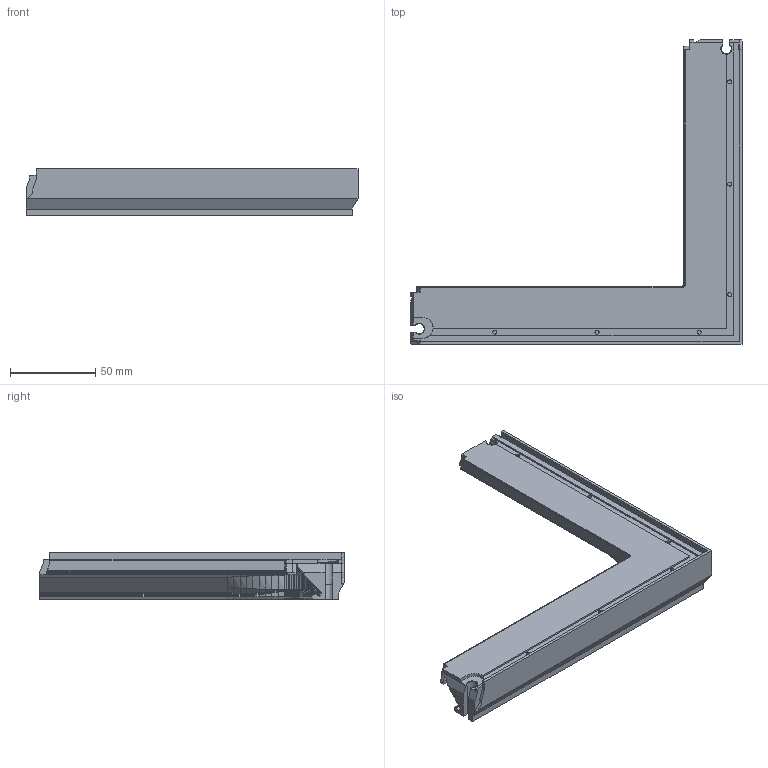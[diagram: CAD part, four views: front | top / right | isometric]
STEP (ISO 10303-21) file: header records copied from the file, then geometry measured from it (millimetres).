
FILE_DESCRIPTION(('Open CASCADE Model'),'2;1');
FILE_NAME('Open CASCADE Shape Model','2026-10-27T10:00:59',('Author'),( 'Open CASCADE'),'Open CASCADE STEP processor 8.0','build123d', 'Unknown');
FILE_SCHEMA(('AUTOMOTIVE_DESIGN { 1 0 10303 214 1 1 1 1 }'));
Products named in the file (1): SOLID
Bounding box: 195.1 x 179.1 x 27.4 mm (x, y, z)
Volume: 184689 mm3; surface area: 48551.3 mm2
Topology: 1 solids, 1 shells, 2257 faces, 4822 edges, 2574 vertices
Faces by surface type: bspline 1846, plane 397, cylinder 8, cone 6
Full cylindrical faces by diameter (mm): 2.4 x6
Entity records: 116699 total; most frequent: CARTESIAN_POINT 30756, DIRECTION 10856, LINE 9962, VECTOR 9962, ORIENTED_EDGE 9644, PCURVE 9644, DEFINITIONAL_REPRESENTATION 9644, EDGE_CURVE 4822
